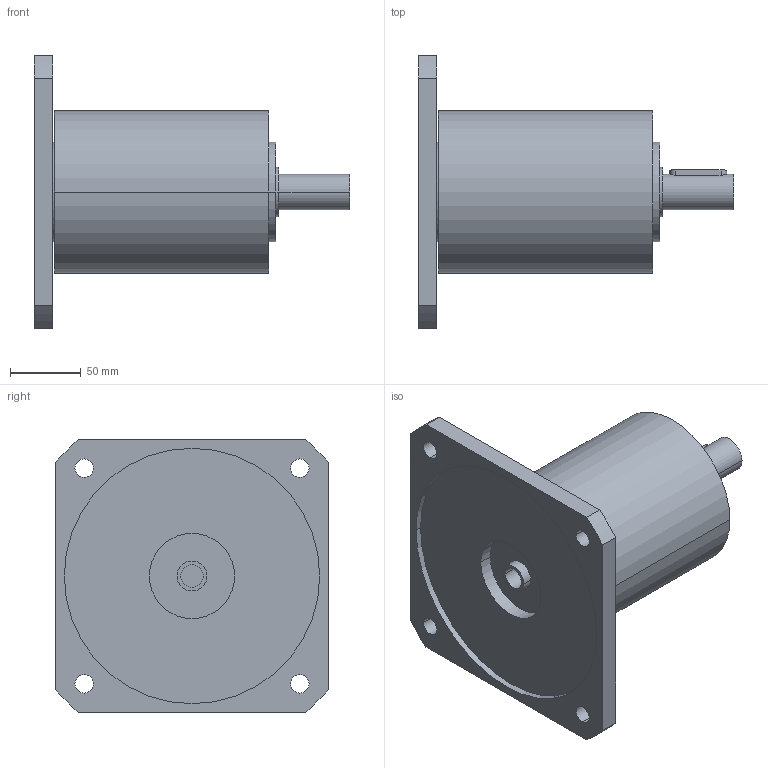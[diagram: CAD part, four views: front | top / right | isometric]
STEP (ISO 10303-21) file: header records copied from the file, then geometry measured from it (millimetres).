
FILE_DESCRIPTION(('CoCreate Modeling STEP Export'),'2;1');
FILE_NAME('GPR125_ig-9-12-16-20-28-35_25_B14_16_P09.stp','2014-08-26T14:10:21',(''),(''),'CoCreate Modeling STEP processor for AP214 (Solid Model)','CoCreate Modeling 16.00C 25-Feb-2009 (C) Parametric Technology GmbH','');
FILE_SCHEMA(('AUTOMOTIVE_DESIGN { 1 0 10303 214 1 1 1 1 }'));
Length unit declared in the file: millimetre
Products named in the file (2): GPR125_ig-9-12-16-20-28-35_25_B14_16_P09
Assembly tree (1 placements, depth 2):
  GPR125_ig-9-12-16-20-28-35_25_B14_16_P09
    GPR125_ig-9-12-16-20-28-35_25_B14_16_P09
Bounding box: 222.4 x 192 x 192 mm (x, y, z)
Volume: 1937658.2 mm3; surface area: 166126.6 mm2
Topology: 1 solids, 1 shells, 68 faces, 188 edges, 134 vertices
Faces by surface type: cylinder 42, plane 22, cone 4
Entity records: 1928 total; most frequent: ORIENTED_EDGE 372, CARTESIAN_POINT 363, DIRECTION 258, EDGE_CURVE 186, VERTEX_POINT 134, AXIS2_PLACEMENT_3D 97, EDGE_LOOP 90, FACE_OUTER_BOUND 68
